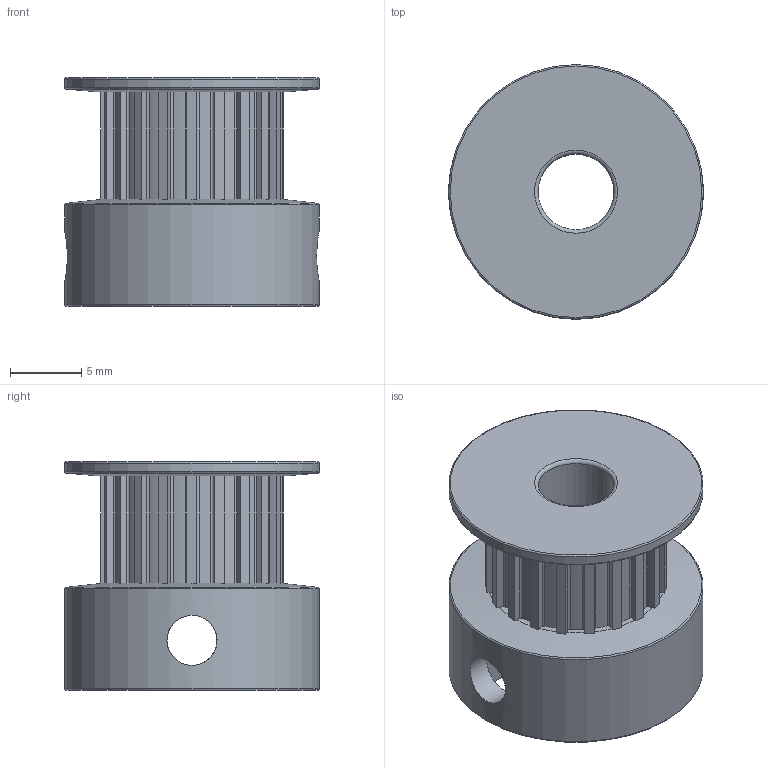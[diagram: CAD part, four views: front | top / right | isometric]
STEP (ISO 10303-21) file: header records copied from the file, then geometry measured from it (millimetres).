
FILE_DESCRIPTION(/* description */ (''),/* implementation_level */ '2;1');
FILE_NAME(/* name */ 'C:/Users/Ulises/Desktop/T1/mecanica_cad/polea_gt2_stepper.step',/* time_stamp */ '2020-10-16T01:30:00-03:00',/* author */ (''),/* organization */ (''),/* preprocessor_version */ 'ST-DEVELOPER v18.1',/* originating_system */ 'Autodesk Translation Framework v9.3.0.1241',/* authorisation */ '');
FILE_SCHEMA (('AUTOMOTIVE_DESIGN { 1 0 10303 214 3 1 1 }'));
Length unit declared in the file: millimetre
Products named in the file (1): polea_gt2_stepper
Bounding box: 17.8 x 17.8 x 16 mm (x, y, z)
Volume: 2288.6 mm3; surface area: 2096.9 mm2
Topology: 1 solids, 1 shells, 208 faces, 572 edges, 367 vertices
Faces by surface type: plane 113, cylinder 87, torus 6, cone 2
Full cylindrical faces by diameter (mm): 3.5 x4, 5.3 x1, 17.8 x2
Entity records: 6817 total; most frequent: CARTESIAN_POINT 1286, DIRECTION 1207, ORIENTED_EDGE 1144, EDGE_CURVE 572, AXIS2_PLACEMENT_3D 436, VERTEX_POINT 367, LINE 335, VECTOR 335
